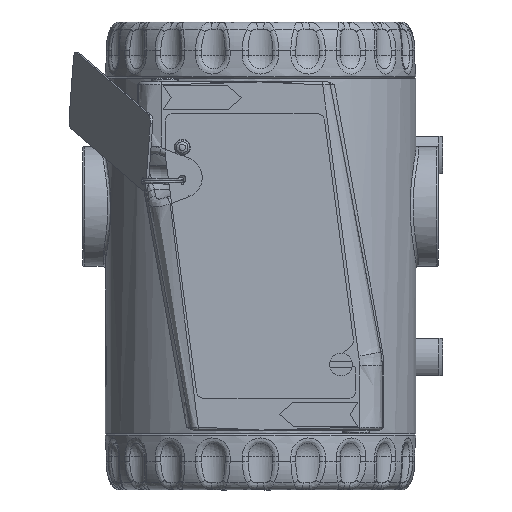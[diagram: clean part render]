
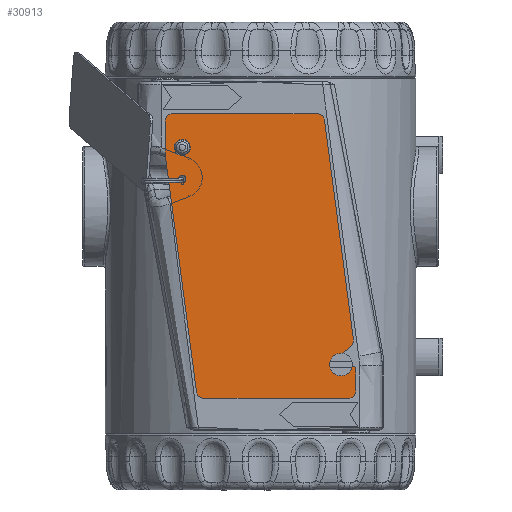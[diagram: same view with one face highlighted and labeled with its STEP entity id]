
A CAD part, left-side view. The second image highlights one B-rep face of the part: STEP entity #30913.
In plain terms, the highlighted planar face has unit normal (-1, 0, 0) as drawn and (0, 0, 1) by its records, which use the part's own axes.
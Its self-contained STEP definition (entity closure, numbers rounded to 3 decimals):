
#1010=PLANE('',#34719);
#1478=FACE_BOUND('',#8405,.T.);
#1479=FACE_BOUND('',#8406,.T.);
#2753=LINE('',#69318,#4161);
#2757=LINE('',#69330,#4165);
#2761=LINE('',#69342,#4169);
#2765=LINE('',#69354,#4173);
#2769=LINE('',#69366,#4177);
#2772=LINE('',#69372,#4180);
#2776=LINE('',#69384,#4184);
#2780=LINE('',#69395,#4188);
#4161=VECTOR('',#42498,10.);
#4165=VECTOR('',#42510,10.);
#4169=VECTOR('',#42522,10.);
#4173=VECTOR('',#42534,10.);
#4177=VECTOR('',#42546,10.);
#4180=VECTOR('',#42551,10.);
#4184=VECTOR('',#42563,10.);
#4188=VECTOR('',#42575,10.);
#6422=FACE_OUTER_BOUND('',#8404,.T.);
#8404=EDGE_LOOP('',(#27075,#27076,#27077,#27078,#27079,#27080,#27081,#27082,
#27083,#27084,#27085,#27086,#27087,#27088,#27089));
#8405=EDGE_LOOP('',(#27090));
#8406=EDGE_LOOP('',(#27091));
#10456=CIRCLE('',#34685,1.35);
#10458=CIRCLE('',#34688,1.);
#10459=CIRCLE('',#34690,2.);
#10461=CIRCLE('',#34694,2.);
#10463=CIRCLE('',#34698,1.);
#10465=CIRCLE('',#34702,2.);
#10467=CIRCLE('',#34706,2.);
#10469=CIRCLE('',#34711,2.);
#10471=CIRCLE('',#34715,2.);
#14227=VERTEX_POINT('',#69298);
#14229=VERTEX_POINT('',#69304);
#14230=VERTEX_POINT('',#69308);
#14231=VERTEX_POINT('',#69309);
#14234=VERTEX_POINT('',#69317);
#14236=VERTEX_POINT('',#69323);
#14238=VERTEX_POINT('',#69329);
#14240=VERTEX_POINT('',#69335);
#14242=VERTEX_POINT('',#69341);
#14244=VERTEX_POINT('',#69347);
#14246=VERTEX_POINT('',#69353);
#14248=VERTEX_POINT('',#69359);
#14250=VERTEX_POINT('',#69365);
#14252=VERTEX_POINT('',#69371);
#14254=VERTEX_POINT('',#69377);
#14256=VERTEX_POINT('',#69383);
#14258=VERTEX_POINT('',#69389);
#18572=EDGE_CURVE('',#14227,#14227,#10456,.T.);
#18575=EDGE_CURVE('',#14229,#14229,#10458,.T.);
#18576=EDGE_CURVE('',#14230,#14231,#10459,.T.);
#18580=EDGE_CURVE('',#14231,#14234,#2753,.T.);
#18583=EDGE_CURVE('',#14234,#14236,#10461,.T.);
#18586=EDGE_CURVE('',#14236,#14238,#2757,.T.);
#18589=EDGE_CURVE('',#14238,#14240,#10463,.T.);
#18592=EDGE_CURVE('',#14240,#14242,#2761,.T.);
#18595=EDGE_CURVE('',#14242,#14244,#10465,.T.);
#18598=EDGE_CURVE('',#14244,#14246,#2765,.T.);
#18601=EDGE_CURVE('',#14246,#14248,#10467,.T.);
#18604=EDGE_CURVE('',#14248,#14250,#2769,.T.);
#18607=EDGE_CURVE('',#14250,#14252,#2772,.T.);
#18610=EDGE_CURVE('',#14252,#14254,#10469,.T.);
#18613=EDGE_CURVE('',#14254,#14256,#2776,.T.);
#18616=EDGE_CURVE('',#14256,#14258,#10471,.T.);
#18619=EDGE_CURVE('',#14258,#14230,#2780,.T.);
#27075=ORIENTED_EDGE('',*,*,#18576,.F.);
#27076=ORIENTED_EDGE('',*,*,#18619,.F.);
#27077=ORIENTED_EDGE('',*,*,#18616,.F.);
#27078=ORIENTED_EDGE('',*,*,#18613,.F.);
#27079=ORIENTED_EDGE('',*,*,#18610,.F.);
#27080=ORIENTED_EDGE('',*,*,#18607,.F.);
#27081=ORIENTED_EDGE('',*,*,#18604,.F.);
#27082=ORIENTED_EDGE('',*,*,#18601,.F.);
#27083=ORIENTED_EDGE('',*,*,#18598,.F.);
#27084=ORIENTED_EDGE('',*,*,#18595,.F.);
#27085=ORIENTED_EDGE('',*,*,#18592,.F.);
#27086=ORIENTED_EDGE('',*,*,#18589,.F.);
#27087=ORIENTED_EDGE('',*,*,#18586,.F.);
#27088=ORIENTED_EDGE('',*,*,#18583,.F.);
#27089=ORIENTED_EDGE('',*,*,#18580,.F.);
#27090=ORIENTED_EDGE('',*,*,#18572,.T.);
#27091=ORIENTED_EDGE('',*,*,#18575,.T.);
#30913=ADVANCED_FACE('',(#6422,#1478,#1479),#1010,.T.);
#34685=AXIS2_PLACEMENT_3D('',#69300,#42479,#42480);
#34688=AXIS2_PLACEMENT_3D('',#69306,#42486,#42487);
#34690=AXIS2_PLACEMENT_3D('',#69310,#42490,#42491);
#34694=AXIS2_PLACEMENT_3D('',#69324,#42503,#42504);
#34698=AXIS2_PLACEMENT_3D('',#69336,#42515,#42516);
#34702=AXIS2_PLACEMENT_3D('',#69348,#42527,#42528);
#34706=AXIS2_PLACEMENT_3D('',#69360,#42539,#42540);
#34711=AXIS2_PLACEMENT_3D('',#69378,#42556,#42557);
#34715=AXIS2_PLACEMENT_3D('',#69390,#42568,#42569);
#34719=AXIS2_PLACEMENT_3D('',#69398,#42579,#42580);
#42479=DIRECTION('center_axis',(0.,0.,-1.));
#42480=DIRECTION('ref_axis',(-1.,0.,0.));
#42486=DIRECTION('center_axis',(0.,0.,-1.));
#42487=DIRECTION('ref_axis',(-1.,0.,0.));
#42490=DIRECTION('center_axis',(0.,0.,-1.));
#42491=DIRECTION('ref_axis',(0.766,0.643,0.));
#42498=DIRECTION('',(0.643,-0.766,0.));
#42503=DIRECTION('center_axis',(0.,0.,1.));
#42504=DIRECTION('ref_axis',(0.766,0.643,0.));
#42510=DIRECTION('',(-0.643,0.766,0.));
#42515=DIRECTION('center_axis',(0.,0.,-1.));
#42516=DIRECTION('ref_axis',(0.,1.,0.));
#42522=DIRECTION('',(1.,0.,0.));
#42527=DIRECTION('center_axis',(0.,0.,-1.));
#42528=DIRECTION('ref_axis',(1.,0.,0.));
#42534=DIRECTION('',(0.,-1.,0.));
#42539=DIRECTION('center_axis',(0.,0.,-1.));
#42540=DIRECTION('ref_axis',(0.131,-0.991,0.));
#42546=DIRECTION('',(-0.991,-0.131,0.));
#42551=DIRECTION('',(-1.,0.,0.));
#42556=DIRECTION('center_axis',(0.,0.,-1.));
#42557=DIRECTION('ref_axis',(-1.,0.,0.));
#42563=DIRECTION('',(0.,1.,0.));
#42568=DIRECTION('center_axis',(0.,0.,-1.));
#42569=DIRECTION('ref_axis',(-0.131,0.991,0.));
#42575=DIRECTION('',(0.991,0.131,0.));
#42579=DIRECTION('center_axis',(0.,0.,1.));
#42580=DIRECTION('ref_axis',(1.,0.,0.));
#69298=CARTESIAN_POINT('',(10.35,4.599,0.7));
#69300=CARTESIAN_POINT('Origin',(9.,4.599,0.7));
#69304=CARTESIAN_POINT('',(18.4,4.599,0.7));
#69306=CARTESIAN_POINT('Origin',(17.4,4.599,0.7));
#69308=CARTESIAN_POINT('',(60.389,50.327,0.7));
#69309=CARTESIAN_POINT('',(62.182,49.63,0.7));
#69310=CARTESIAN_POINT('Origin',(60.65,48.344,0.7));
#69317=CARTESIAN_POINT('',(65.468,45.714,0.7));
#69318=CARTESIAN_POINT('',(65.468,45.714,0.7));
#69323=CARTESIAN_POINT('',(68.532,48.286,0.7));
#69324=CARTESIAN_POINT('Origin',(67.,47.,0.7));
#69329=CARTESIAN_POINT('',(67.633,49.357,0.7));
#69330=CARTESIAN_POINT('',(67.633,49.357,0.7));
#69335=CARTESIAN_POINT('',(68.399,51.,0.7));
#69336=CARTESIAN_POINT('Origin',(68.399,50.,0.7));
#69341=CARTESIAN_POINT('',(74.,51.,0.7));
#69342=CARTESIAN_POINT('',(74.,51.,0.7));
#69347=CARTESIAN_POINT('',(76.,49.,0.7));
#69348=CARTESIAN_POINT('Origin',(74.,49.,0.7));
#69353=CARTESIAN_POINT('',(76.,10.377,0.7));
#69354=CARTESIAN_POINT('',(76.,10.377,0.7));
#69359=CARTESIAN_POINT('',(74.261,8.394,0.7));
#69360=CARTESIAN_POINT('Origin',(74.,10.377,0.7));
#69365=CARTESIAN_POINT('',(10.5,0.,0.7));
#69366=CARTESIAN_POINT('',(10.5,0.,0.7));
#69371=CARTESIAN_POINT('',(2.,0.,0.7));
#69372=CARTESIAN_POINT('',(2.,0.,0.7));
#69377=CARTESIAN_POINT('',(0.,2.,0.7));
#69378=CARTESIAN_POINT('Origin',(2.,2.,0.7));
#69383=CARTESIAN_POINT('',(0.,40.623,0.7));
#69384=CARTESIAN_POINT('',(0.,40.623,0.7));
#69389=CARTESIAN_POINT('',(1.739,42.606,0.7));
#69390=CARTESIAN_POINT('Origin',(2.,40.623,0.7));
#69395=CARTESIAN_POINT('',(60.389,50.327,0.7));
#69398=CARTESIAN_POINT('Origin',(39.077,26.228,0.7));
